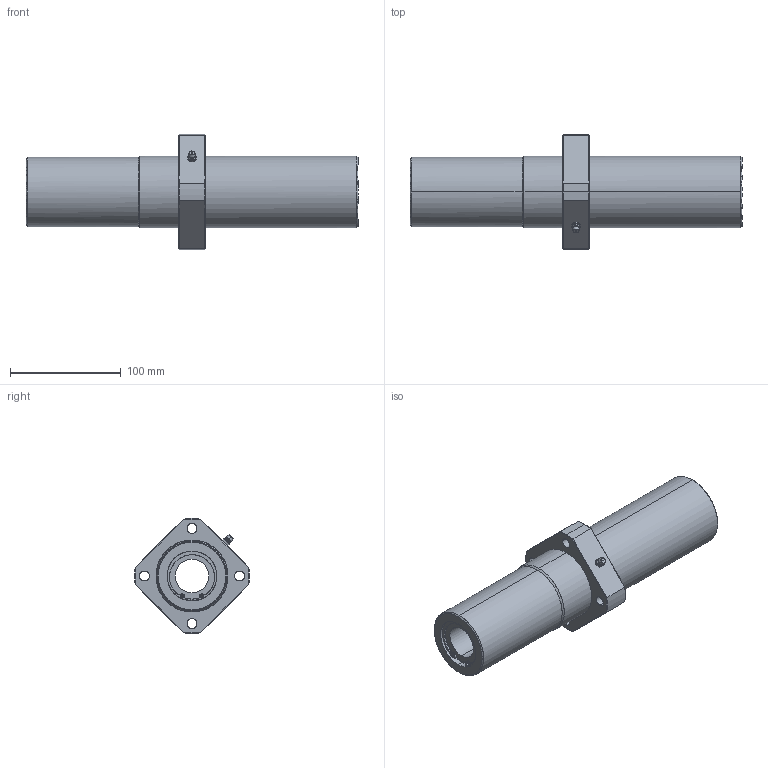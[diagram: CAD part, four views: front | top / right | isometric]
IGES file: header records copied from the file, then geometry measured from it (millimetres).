
Global section: file name: No Iges File Name specified; native system: AutoDesk Inventor R10; preprocessor: AutoDesk Inventor Iges Exporter R10; author: No Author specified; organization: No Organization specified; date: 20101214.141737; units: millimetre
Bounding box: 300 x 103.86 x 104 mm (x, y, z)
Surface area: 114067.6 mm2 (no closed solid volume)
Topology: 0 solids, 0 shells, 186 faces, 1244 edges, 1242 vertices
Faces by surface type: bspline 186
